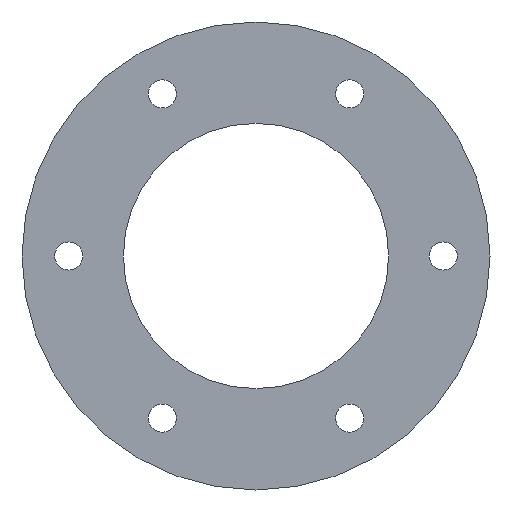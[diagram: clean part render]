
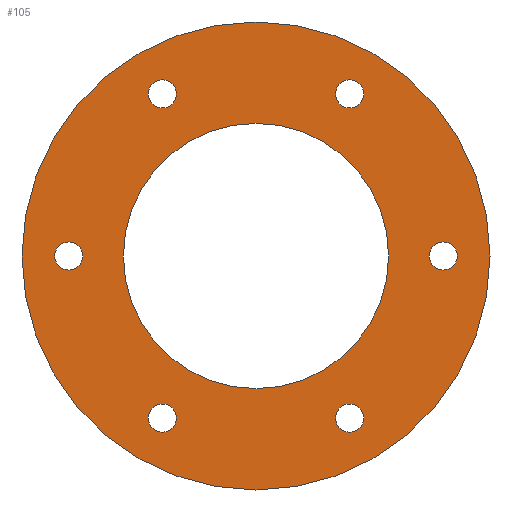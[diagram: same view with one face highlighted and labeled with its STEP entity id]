
A CAD part, front view. The second image highlights one B-rep face of the part: STEP entity #105.
In plain terms, the highlighted planar face has unit normal (0, -1, 0).
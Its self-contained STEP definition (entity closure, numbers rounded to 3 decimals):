
#21 = EDGE_CURVE('',#22,#22,#24,.T.);
#22 = VERTEX_POINT('',#23);
#23 = CARTESIAN_POINT('',(75.,26.,0.));
#24 = SURFACE_CURVE('',#25,(#30,#42),.PCURVE_S1.);
#25 = CIRCLE('',#26,30.);
#26 = AXIS2_PLACEMENT_3D('',#27,#28,#29);
#27 = CARTESIAN_POINT('',(45.,26.,0.));
#28 = DIRECTION('',(0.,-1.,0.));
#29 = DIRECTION('',(1.,0.,0.));
#30 = PCURVE('',#31,#36);
#31 = CYLINDRICAL_SURFACE('',#32,30.);
#32 = AXIS2_PLACEMENT_3D('',#33,#34,#35);
#33 = CARTESIAN_POINT('',(45.,34.,0.));
#34 = DIRECTION('',(0.,-1.,0.));
#35 = DIRECTION('',(1.,0.,0.));
#36 = DEFINITIONAL_REPRESENTATION('',(#37),#41);
#37 = LINE('',#38,#39);
#38 = CARTESIAN_POINT('',(0.,8.));
#39 = VECTOR('',#40,1.);
#40 = DIRECTION('',(1.,0.));
#41 = ( GEOMETRIC_REPRESENTATION_CONTEXT(2) 
PARAMETRIC_REPRESENTATION_CONTEXT() REPRESENTATION_CONTEXT('2D SPACE',''
  ) );
#42 = PCURVE('',#43,#48);
#43 = PLANE('',#44);
#44 = AXIS2_PLACEMENT_3D('',#45,#46,#47);
#45 = CARTESIAN_POINT('',(45.,26.,0.));
#46 = DIRECTION('',(0.,-1.,0.));
#47 = DIRECTION('',(1.,0.,0.));
#48 = DEFINITIONAL_REPRESENTATION('',(#49),#53);
#49 = CIRCLE('',#50,30.);
#50 = AXIS2_PLACEMENT_2D('',#51,#52);
#51 = CARTESIAN_POINT('',(0.,0.));
#52 = DIRECTION('',(1.,0.));
#53 = ( GEOMETRIC_REPRESENTATION_CONTEXT(2) 
PARAMETRIC_REPRESENTATION_CONTEXT() REPRESENTATION_CONTEXT('2D SPACE',''
  ) );
#105 = ADVANCED_FACE('',(#106,#109,#140,#171,#202,#233,#264,#295),#43,
  .T.);
#106 = FACE_BOUND('',#107,.T.);
#107 = EDGE_LOOP('',(#108));
#108 = ORIENTED_EDGE('',*,*,#21,.T.);
#109 = FACE_BOUND('',#110,.T.);
#110 = EDGE_LOOP('',(#111));
#111 = ORIENTED_EDGE('',*,*,#112,.F.);
#112 = EDGE_CURVE('',#113,#113,#115,.T.);
#113 = VERTEX_POINT('',#114);
#114 = CARTESIAN_POINT('',(34.8,26.,-20.785));
#115 = SURFACE_CURVE('',#116,(#121,#128),.PCURVE_S1.);
#116 = CIRCLE('',#117,1.8);
#117 = AXIS2_PLACEMENT_3D('',#118,#119,#120);
#118 = CARTESIAN_POINT('',(33.,26.,-20.785));
#119 = DIRECTION('',(0.,-1.,0.));
#120 = DIRECTION('',(1.,0.,0.));
#121 = PCURVE('',#43,#122);
#122 = DEFINITIONAL_REPRESENTATION('',(#123),#127);
#123 = CIRCLE('',#124,1.8);
#124 = AXIS2_PLACEMENT_2D('',#125,#126);
#125 = CARTESIAN_POINT('',(-12.,-20.785));
#126 = DIRECTION('',(1.,0.));
#127 = ( GEOMETRIC_REPRESENTATION_CONTEXT(2) 
PARAMETRIC_REPRESENTATION_CONTEXT() REPRESENTATION_CONTEXT('2D SPACE',''
  ) );
#128 = PCURVE('',#129,#134);
#129 = CYLINDRICAL_SURFACE('',#130,1.8);
#130 = AXIS2_PLACEMENT_3D('',#131,#132,#133);
#131 = CARTESIAN_POINT('',(33.,36.,-20.785));
#132 = DIRECTION('',(0.,-1.,0.));
#133 = DIRECTION('',(1.,0.,0.));
#134 = DEFINITIONAL_REPRESENTATION('',(#135),#139);
#135 = LINE('',#136,#137);
#136 = CARTESIAN_POINT('',(0.,10.));
#137 = VECTOR('',#138,1.);
#138 = DIRECTION('',(1.,0.));
#139 = ( GEOMETRIC_REPRESENTATION_CONTEXT(2) 
PARAMETRIC_REPRESENTATION_CONTEXT() REPRESENTATION_CONTEXT('2D SPACE',''
  ) );
#140 = FACE_BOUND('',#141,.T.);
#141 = EDGE_LOOP('',(#142));
#142 = ORIENTED_EDGE('',*,*,#143,.F.);
#143 = EDGE_CURVE('',#144,#144,#146,.T.);
#144 = VERTEX_POINT('',#145);
#145 = CARTESIAN_POINT('',(58.8,26.,-20.785));
#146 = SURFACE_CURVE('',#147,(#152,#159),.PCURVE_S1.);
#147 = CIRCLE('',#148,1.8);
#148 = AXIS2_PLACEMENT_3D('',#149,#150,#151);
#149 = CARTESIAN_POINT('',(57.,26.,-20.785));
#150 = DIRECTION('',(0.,-1.,0.));
#151 = DIRECTION('',(1.,0.,0.));
#152 = PCURVE('',#43,#153);
#153 = DEFINITIONAL_REPRESENTATION('',(#154),#158);
#154 = CIRCLE('',#155,1.8);
#155 = AXIS2_PLACEMENT_2D('',#156,#157);
#156 = CARTESIAN_POINT('',(12.,-20.785));
#157 = DIRECTION('',(1.,0.));
#158 = ( GEOMETRIC_REPRESENTATION_CONTEXT(2) 
PARAMETRIC_REPRESENTATION_CONTEXT() REPRESENTATION_CONTEXT('2D SPACE',''
  ) );
#159 = PCURVE('',#160,#165);
#160 = CYLINDRICAL_SURFACE('',#161,1.8);
#161 = AXIS2_PLACEMENT_3D('',#162,#163,#164);
#162 = CARTESIAN_POINT('',(57.,36.,-20.785));
#163 = DIRECTION('',(0.,-1.,0.));
#164 = DIRECTION('',(1.,0.,0.));
#165 = DEFINITIONAL_REPRESENTATION('',(#166),#170);
#166 = LINE('',#167,#168);
#167 = CARTESIAN_POINT('',(0.,10.));
#168 = VECTOR('',#169,1.);
#169 = DIRECTION('',(1.,0.));
#170 = ( GEOMETRIC_REPRESENTATION_CONTEXT(2) 
PARAMETRIC_REPRESENTATION_CONTEXT() REPRESENTATION_CONTEXT('2D SPACE',''
  ) );
#171 = FACE_BOUND('',#172,.T.);
#172 = EDGE_LOOP('',(#173));
#173 = ORIENTED_EDGE('',*,*,#174,.F.);
#174 = EDGE_CURVE('',#175,#175,#177,.T.);
#175 = VERTEX_POINT('',#176);
#176 = CARTESIAN_POINT('',(22.8,26.,0.));
#177 = SURFACE_CURVE('',#178,(#183,#190),.PCURVE_S1.);
#178 = CIRCLE('',#179,1.8);
#179 = AXIS2_PLACEMENT_3D('',#180,#181,#182);
#180 = CARTESIAN_POINT('',(21.,26.,0.));
#181 = DIRECTION('',(0.,-1.,0.));
#182 = DIRECTION('',(1.,0.,0.));
#183 = PCURVE('',#43,#184);
#184 = DEFINITIONAL_REPRESENTATION('',(#185),#189);
#185 = CIRCLE('',#186,1.8);
#186 = AXIS2_PLACEMENT_2D('',#187,#188);
#187 = CARTESIAN_POINT('',(-24.,0.));
#188 = DIRECTION('',(1.,0.));
#189 = ( GEOMETRIC_REPRESENTATION_CONTEXT(2) 
PARAMETRIC_REPRESENTATION_CONTEXT() REPRESENTATION_CONTEXT('2D SPACE',''
  ) );
#190 = PCURVE('',#191,#196);
#191 = CYLINDRICAL_SURFACE('',#192,1.8);
#192 = AXIS2_PLACEMENT_3D('',#193,#194,#195);
#193 = CARTESIAN_POINT('',(21.,36.,0.));
#194 = DIRECTION('',(0.,-1.,0.));
#195 = DIRECTION('',(1.,0.,0.));
#196 = DEFINITIONAL_REPRESENTATION('',(#197),#201);
#197 = LINE('',#198,#199);
#198 = CARTESIAN_POINT('',(0.,10.));
#199 = VECTOR('',#200,1.);
#200 = DIRECTION('',(1.,0.));
#201 = ( GEOMETRIC_REPRESENTATION_CONTEXT(2) 
PARAMETRIC_REPRESENTATION_CONTEXT() REPRESENTATION_CONTEXT('2D SPACE',''
  ) );
#202 = FACE_BOUND('',#203,.T.);
#203 = EDGE_LOOP('',(#204));
#204 = ORIENTED_EDGE('',*,*,#205,.F.);
#205 = EDGE_CURVE('',#206,#206,#208,.T.);
#206 = VERTEX_POINT('',#207);
#207 = CARTESIAN_POINT('',(34.8,26.,20.785));
#208 = SURFACE_CURVE('',#209,(#214,#221),.PCURVE_S1.);
#209 = CIRCLE('',#210,1.8);
#210 = AXIS2_PLACEMENT_3D('',#211,#212,#213);
#211 = CARTESIAN_POINT('',(33.,26.,20.785));
#212 = DIRECTION('',(0.,-1.,0.));
#213 = DIRECTION('',(1.,0.,0.));
#214 = PCURVE('',#43,#215);
#215 = DEFINITIONAL_REPRESENTATION('',(#216),#220);
#216 = CIRCLE('',#217,1.8);
#217 = AXIS2_PLACEMENT_2D('',#218,#219);
#218 = CARTESIAN_POINT('',(-12.,20.785));
#219 = DIRECTION('',(1.,0.));
#220 = ( GEOMETRIC_REPRESENTATION_CONTEXT(2) 
PARAMETRIC_REPRESENTATION_CONTEXT() REPRESENTATION_CONTEXT('2D SPACE',''
  ) );
#221 = PCURVE('',#222,#227);
#222 = CYLINDRICAL_SURFACE('',#223,1.8);
#223 = AXIS2_PLACEMENT_3D('',#224,#225,#226);
#224 = CARTESIAN_POINT('',(33.,36.,20.785));
#225 = DIRECTION('',(0.,-1.,0.));
#226 = DIRECTION('',(1.,0.,0.));
#227 = DEFINITIONAL_REPRESENTATION('',(#228),#232);
#228 = LINE('',#229,#230);
#229 = CARTESIAN_POINT('',(0.,10.));
#230 = VECTOR('',#231,1.);
#231 = DIRECTION('',(1.,0.));
#232 = ( GEOMETRIC_REPRESENTATION_CONTEXT(2) 
PARAMETRIC_REPRESENTATION_CONTEXT() REPRESENTATION_CONTEXT('2D SPACE',''
  ) );
#233 = FACE_BOUND('',#234,.T.);
#234 = EDGE_LOOP('',(#235));
#235 = ORIENTED_EDGE('',*,*,#236,.F.);
#236 = EDGE_CURVE('',#237,#237,#239,.T.);
#237 = VERTEX_POINT('',#238);
#238 = CARTESIAN_POINT('',(62.,26.,0.));
#239 = SURFACE_CURVE('',#240,(#245,#252),.PCURVE_S1.);
#240 = CIRCLE('',#241,17.);
#241 = AXIS2_PLACEMENT_3D('',#242,#243,#244);
#242 = CARTESIAN_POINT('',(45.,26.,0.));
#243 = DIRECTION('',(0.,-1.,0.));
#244 = DIRECTION('',(1.,0.,0.));
#245 = PCURVE('',#43,#246);
#246 = DEFINITIONAL_REPRESENTATION('',(#247),#251);
#247 = CIRCLE('',#248,17.);
#248 = AXIS2_PLACEMENT_2D('',#249,#250);
#249 = CARTESIAN_POINT('',(0.,0.));
#250 = DIRECTION('',(1.,0.));
#251 = ( GEOMETRIC_REPRESENTATION_CONTEXT(2) 
PARAMETRIC_REPRESENTATION_CONTEXT() REPRESENTATION_CONTEXT('2D SPACE',''
  ) );
#252 = PCURVE('',#253,#258);
#253 = CYLINDRICAL_SURFACE('',#254,17.);
#254 = AXIS2_PLACEMENT_3D('',#255,#256,#257);
#255 = CARTESIAN_POINT('',(45.,35.,0.));
#256 = DIRECTION('',(0.,-1.,0.));
#257 = DIRECTION('',(1.,0.,0.));
#258 = DEFINITIONAL_REPRESENTATION('',(#259),#263);
#259 = LINE('',#260,#261);
#260 = CARTESIAN_POINT('',(0.,9.));
#261 = VECTOR('',#262,1.);
#262 = DIRECTION('',(1.,0.));
#263 = ( GEOMETRIC_REPRESENTATION_CONTEXT(2) 
PARAMETRIC_REPRESENTATION_CONTEXT() REPRESENTATION_CONTEXT('2D SPACE',''
  ) );
#264 = FACE_BOUND('',#265,.T.);
#265 = EDGE_LOOP('',(#266));
#266 = ORIENTED_EDGE('',*,*,#267,.F.);
#267 = EDGE_CURVE('',#268,#268,#270,.T.);
#268 = VERTEX_POINT('',#269);
#269 = CARTESIAN_POINT('',(70.8,26.,0.));
#270 = SURFACE_CURVE('',#271,(#276,#283),.PCURVE_S1.);
#271 = CIRCLE('',#272,1.8);
#272 = AXIS2_PLACEMENT_3D('',#273,#274,#275);
#273 = CARTESIAN_POINT('',(69.,26.,0.));
#274 = DIRECTION('',(0.,-1.,0.));
#275 = DIRECTION('',(1.,0.,0.));
#276 = PCURVE('',#43,#277);
#277 = DEFINITIONAL_REPRESENTATION('',(#278),#282);
#278 = CIRCLE('',#279,1.8);
#279 = AXIS2_PLACEMENT_2D('',#280,#281);
#280 = CARTESIAN_POINT('',(24.,0.));
#281 = DIRECTION('',(1.,0.));
#282 = ( GEOMETRIC_REPRESENTATION_CONTEXT(2) 
PARAMETRIC_REPRESENTATION_CONTEXT() REPRESENTATION_CONTEXT('2D SPACE',''
  ) );
#283 = PCURVE('',#284,#289);
#284 = CYLINDRICAL_SURFACE('',#285,1.8);
#285 = AXIS2_PLACEMENT_3D('',#286,#287,#288);
#286 = CARTESIAN_POINT('',(69.,36.,0.));
#287 = DIRECTION('',(0.,-1.,0.));
#288 = DIRECTION('',(1.,0.,0.));
#289 = DEFINITIONAL_REPRESENTATION('',(#290),#294);
#290 = LINE('',#291,#292);
#291 = CARTESIAN_POINT('',(0.,10.));
#292 = VECTOR('',#293,1.);
#293 = DIRECTION('',(1.,0.));
#294 = ( GEOMETRIC_REPRESENTATION_CONTEXT(2) 
PARAMETRIC_REPRESENTATION_CONTEXT() REPRESENTATION_CONTEXT('2D SPACE',''
  ) );
#295 = FACE_BOUND('',#296,.T.);
#296 = EDGE_LOOP('',(#297));
#297 = ORIENTED_EDGE('',*,*,#298,.F.);
#298 = EDGE_CURVE('',#299,#299,#301,.T.);
#299 = VERTEX_POINT('',#300);
#300 = CARTESIAN_POINT('',(58.8,26.,20.785));
#301 = SURFACE_CURVE('',#302,(#307,#314),.PCURVE_S1.);
#302 = CIRCLE('',#303,1.8);
#303 = AXIS2_PLACEMENT_3D('',#304,#305,#306);
#304 = CARTESIAN_POINT('',(57.,26.,20.785));
#305 = DIRECTION('',(0.,-1.,0.));
#306 = DIRECTION('',(1.,0.,0.));
#307 = PCURVE('',#43,#308);
#308 = DEFINITIONAL_REPRESENTATION('',(#309),#313);
#309 = CIRCLE('',#310,1.8);
#310 = AXIS2_PLACEMENT_2D('',#311,#312);
#311 = CARTESIAN_POINT('',(12.,20.785));
#312 = DIRECTION('',(1.,0.));
#313 = ( GEOMETRIC_REPRESENTATION_CONTEXT(2) 
PARAMETRIC_REPRESENTATION_CONTEXT() REPRESENTATION_CONTEXT('2D SPACE',''
  ) );
#314 = PCURVE('',#315,#320);
#315 = CYLINDRICAL_SURFACE('',#316,1.8);
#316 = AXIS2_PLACEMENT_3D('',#317,#318,#319);
#317 = CARTESIAN_POINT('',(57.,36.,20.785));
#318 = DIRECTION('',(0.,-1.,0.));
#319 = DIRECTION('',(1.,0.,0.));
#320 = DEFINITIONAL_REPRESENTATION('',(#321),#325);
#321 = LINE('',#322,#323);
#322 = CARTESIAN_POINT('',(0.,10.));
#323 = VECTOR('',#324,1.);
#324 = DIRECTION('',(1.,0.));
#325 = ( GEOMETRIC_REPRESENTATION_CONTEXT(2) 
PARAMETRIC_REPRESENTATION_CONTEXT() REPRESENTATION_CONTEXT('2D SPACE',''
  ) );
